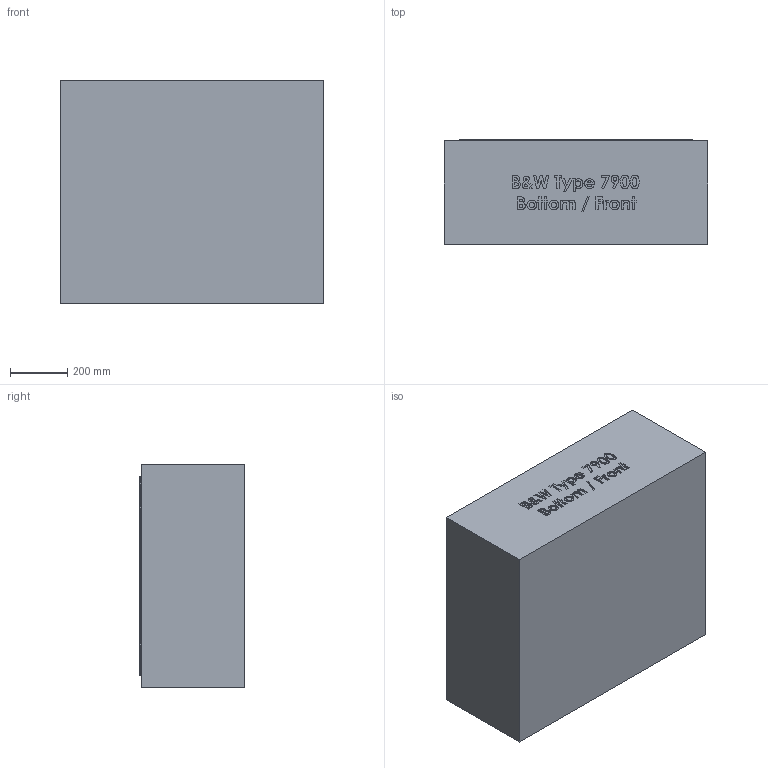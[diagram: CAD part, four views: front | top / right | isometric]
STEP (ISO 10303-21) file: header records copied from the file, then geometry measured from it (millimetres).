
FILE_DESCRIPTION (( 'STEP AP203' ), '1' );
FILE_NAME ('Type 7900 - innside drawing - bottom.STEP', '2025-12-22T11:34:40', ( '' ), ( '' ), 'SwSTEP 2.0', 'SolidWorks 2025', '' );
FILE_SCHEMA (( 'CONFIG_CONTROL_DESIGN' ));
Length unit declared in the file: millimetre
Products named in the file (1): Type 7900 - innside drawing - bottom
Bounding box: 920 x 366.18 x 780 mm (x, y, z)
Volume: 89192071.6 mm3; surface area: 3615126.8 mm2
Topology: 1 solids, 1 shells, 1705 faces, 4262 edges, 2519 vertices
Faces by surface type: bspline 646, cylinder 544, plane 421, sphere 64, torus 18, cone 12
Entity records: 73556 total; most frequent: CARTESIAN_POINT 39413, ORIENTED_EDGE 8344, DIRECTION 5497, EDGE_CURVE 4172, VERTEX_POINT 2519, AXIS2_PLACEMENT_3D 1859, LINE 1779, VECTOR 1779
